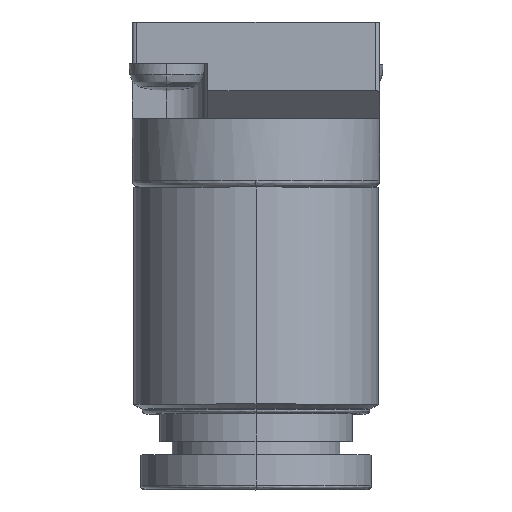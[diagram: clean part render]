
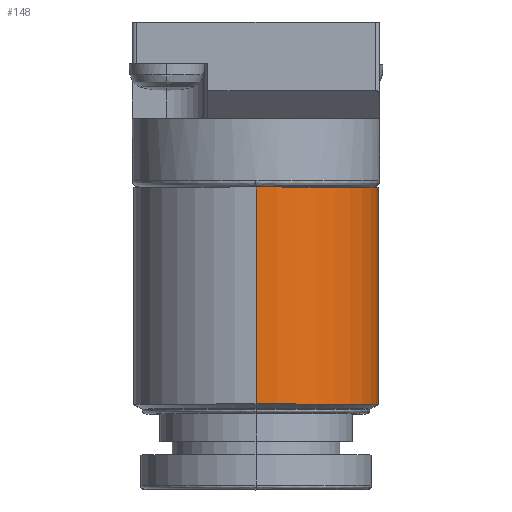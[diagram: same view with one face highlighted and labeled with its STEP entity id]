
A CAD part, top view. The second image highlights one B-rep face of the part: STEP entity #148.
In plain terms, the highlighted cylindrical face has radius 8.9 mm (diameter 17.8 mm), a partial arc.
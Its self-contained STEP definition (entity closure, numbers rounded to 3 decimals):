
#148=ADVANCED_FACE('',(#1181),#1180,.T.);
#1180=CYLINDRICAL_SURFACE('',#2107,8.9);
#1181=FACE_OUTER_BOUND('',#2108,.T.);
#2104=CARTESIAN_POINT('',(0.,0.,9.5));
#2105=DIRECTION('',(0.,1.,0.));
#2106=DIRECTION('',(0.,0.,1.));
#2107=AXIS2_PLACEMENT_3D('',#2104,#2105,#2106);
#2108=EDGE_LOOP('',(#2606,#2607,#2608,#2609));
#2606=ORIENTED_EDGE('',*,*,#2615,.T.);
#2607=ORIENTED_EDGE('',*,*,#2862,.F.);
#2608=ORIENTED_EDGE('',*,*,#2861,.F.);
#2609=ORIENTED_EDGE('',*,*,#2863,.T.);
#2615=EDGE_CURVE('',#2865,#2864,#2872,.T.);
#2861=EDGE_CURVE('',#4485,#4484,#4504,.T.);
#2862=EDGE_CURVE('',#4484,#2864,#4510,.T.);
#2863=EDGE_CURVE('',#4485,#2865,#4516,.T.);
#2864=VERTEX_POINT('',#4522);
#2865=VERTEX_POINT('',#4523);
#2872=CIRCLE('',#4531,8.9);
#4484=VERTEX_POINT('',#5507);
#4485=VERTEX_POINT('',#5508);
#4504=CIRCLE('',#5520,8.9);
#4510=(BOUNDED_CURVE() B_SPLINE_CURVE(1,(#5521,#5522),.UNSPECIFIED.,.F.,.F.) B_SPLINE_CURVE_WITH_KNOTS((2,2),(0.083,0.917),.UNSPECIFIED.) CURVE() GEOMETRIC_REPRESENTATION_ITEM() RATIONAL_B_SPLINE_CURVE((1.,1.)) REPRESENTATION_ITEM('') );
#4516=(BOUNDED_CURVE() B_SPLINE_CURVE(1,(#5523,#5524),.UNSPECIFIED.,.F.,.F.) B_SPLINE_CURVE_WITH_KNOTS((2,2),(0.083,0.917),.UNSPECIFIED.) CURVE() GEOMETRIC_REPRESENTATION_ITEM() RATIONAL_B_SPLINE_CURVE((0.75,0.75)) REPRESENTATION_ITEM('') );
#4522=CARTESIAN_POINT('',(0.,-12.,18.4));
#4523=CARTESIAN_POINT('',(0.,-12.,0.6));
#4528=CARTESIAN_POINT('',(0.,-12.,9.5));
#4529=DIRECTION('',(0.,-1.,0.));
#4530=DIRECTION('',(0.,0.,-1.));
#4531=AXIS2_PLACEMENT_3D('',#4528,#4529,#4530);
#5507=CARTESIAN_POINT('',(0.,-27.8,18.4));
#5508=CARTESIAN_POINT('',(0.,-27.8,0.6));
#5517=CARTESIAN_POINT('',(0.,-27.8,9.5));
#5518=DIRECTION('',(0.,-1.,0.));
#5519=DIRECTION('',(0.,0.,-1.));
#5520=AXIS2_PLACEMENT_3D('',#5517,#5518,#5519);
#5521=CARTESIAN_POINT('',(0.,-27.8,18.4));
#5522=CARTESIAN_POINT('',(0.,-12.,18.4));
#5523=CARTESIAN_POINT('',(0.,-27.8,0.6));
#5524=CARTESIAN_POINT('',(0.,-12.,0.6));
